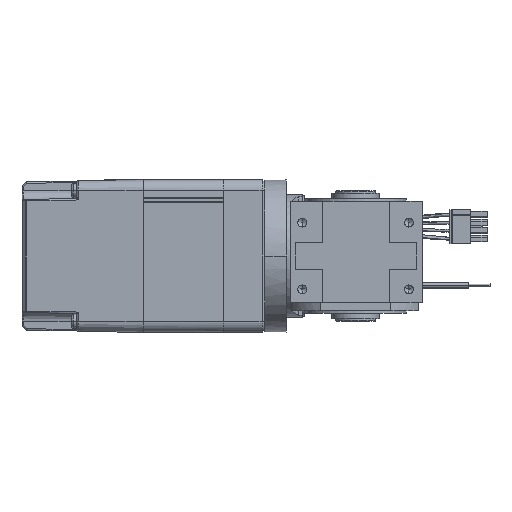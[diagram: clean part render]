
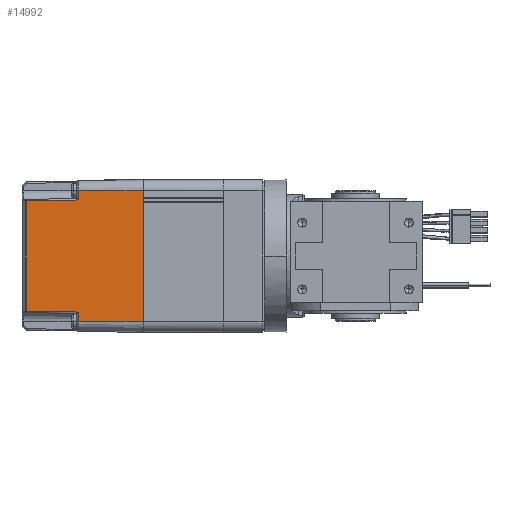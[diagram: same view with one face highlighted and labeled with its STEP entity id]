
A CAD part, front view. The second image highlights one B-rep face of the part: STEP entity #14992.
In plain terms, the highlighted planar face has unit normal (-0.018, -1, 0) as drawn and (0, 0.017, -1) by its records, which use the part's own axes.
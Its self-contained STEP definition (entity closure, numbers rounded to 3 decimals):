
#1582 = DIRECTION ( 'NONE',  ( 1., 0., 0. ) ) ;
#1925 = DIRECTION ( 'NONE',  ( -0.017, 1., 0.017 ) ) ;
#2215 = CARTESIAN_POINT ( 'NONE',  ( -21.371, 89.197, -27.787 ) ) ;
#2963 = VECTOR ( 'NONE', #19894, 1000. ) ;
#3404 = EDGE_CURVE ( 'NONE', #11133, #26727, #10520, .T. ) ;
#4010 = CARTESIAN_POINT ( 'NONE',  ( -24.5, 45.501, -28.55 ) ) ;
#4313 = ORIENTED_EDGE ( 'NONE', *, *, #36186, .F. ) ;
#4352 = ORIENTED_EDGE ( 'NONE', *, *, #3404, .T. ) ;
#4995 = LINE ( 'NONE', #49930, #24894 ) ;
#5929 = CARTESIAN_POINT ( 'NONE',  ( 20.637, 91.104, -27.754 ) ) ;
#6592 = DIRECTION ( 'NONE',  ( 0., 0.017, -1. ) ) ;
#7137 = VERTEX_POINT ( 'NONE', #26897 ) ;
#8196 = VECTOR ( 'NONE', #39408, 1000. ) ;
#8610 = VECTOR ( 'NONE', #21625, 1000. ) ;
#10025 = EDGE_CURVE ( 'NONE', #10252, #23198, #38202, .T. ) ;
#10252 = VERTEX_POINT ( 'NONE', #52858 ) ;
#10520 = LINE ( 'NONE', #43403, #8196 ) ;
#11049 = CARTESIAN_POINT ( 'NONE',  ( 24.5, 45.501, -28.55 ) ) ;
#11133 = VERTEX_POINT ( 'NONE', #24631 ) ;
#11315 = DIRECTION ( 'NONE',  ( 0., -1., -0.017 ) ) ;
#12358 = ORIENTED_EDGE ( 'NONE', *, *, #26862, .F. ) ;
#12559 = EDGE_CURVE ( 'NONE', #23198, #39804, #48217, .T. ) ;
#12953 = VECTOR ( 'NONE', #11315, 1000. ) ;
#13602 = CARTESIAN_POINT ( 'NONE',  ( 24.5, 45.5, -28.55 ) ) ;
#13882 = EDGE_CURVE ( 'NONE', #39804, #26980, #42602, .T. ) ;
#13955 = CARTESIAN_POINT ( 'NONE',  ( 24.5, 69.81, -28.126 ) ) ;
#14992 = ADVANCED_FACE ( 'NONE', ( #43771 ), #27908, .T. ) ;
#16564 = ORIENTED_EDGE ( 'NONE', *, *, #10025, .T. ) ;
#16761 = VERTEX_POINT ( 'NONE', #32447 ) ;
#17273 = EDGE_CURVE ( 'NONE', #26980, #11133, #52185, .T. ) ;
#17756 = ORIENTED_EDGE ( 'NONE', *, *, #12559, .T. ) ;
#19894 = DIRECTION ( 'NONE',  ( 0., 1., 0.017 ) ) ;
#21625 = DIRECTION ( 'NONE',  ( -1., 0., 0. ) ) ;
#23198 = VERTEX_POINT ( 'NONE', #13955 ) ;
#23865 = DIRECTION ( 'NONE',  ( 0., 1., 0.017 ) ) ;
#24309 = VECTOR ( 'NONE', #35067, 1000. ) ;
#24631 = CARTESIAN_POINT ( 'NONE',  ( -24.5, 69.81, -28.126 ) ) ;
#24894 = VECTOR ( 'NONE', #46161, 1000. ) ;
#26715 = LINE ( 'NONE', #5929, #45273 ) ;
#26727 = VERTEX_POINT ( 'NONE', #36795 ) ;
#26862 = EDGE_CURVE ( 'NONE', #16761, #26727, #4995, .T. ) ;
#26897 = CARTESIAN_POINT ( 'NONE',  ( 20.67, 89.197, -27.787 ) ) ;
#26980 = VERTEX_POINT ( 'NONE', #30714 ) ;
#27908 = PLANE ( 'NONE',  #34719 ) ;
#29340 = CARTESIAN_POINT ( 'NONE',  ( 30.61, 69.81, -28.126 ) ) ;
#30714 = CARTESIAN_POINT ( 'NONE',  ( -24.5, 45.5, -28.55 ) ) ;
#32447 = CARTESIAN_POINT ( 'NONE',  ( -20.67, 89.197, -27.787 ) ) ;
#33568 = ORIENTED_EDGE ( 'NONE', *, *, #17273, .T. ) ;
#34547 = ORIENTED_EDGE ( 'NONE', *, *, #13882, .T. ) ;
#34719 = AXIS2_PLACEMENT_3D ( 'NONE', #44288, #6592, #23865 ) ;
#34789 = CARTESIAN_POINT ( 'NONE',  ( 30.61, 45.5, -28.55 ) ) ;
#35067 = DIRECTION ( 'NONE',  ( -1., 0., 0. ) ) ;
#36186 = EDGE_CURVE ( 'NONE', #7137, #16761, #50400, .T. ) ;
#36795 = CARTESIAN_POINT ( 'NONE',  ( -21.008, 69.81, -28.126 ) ) ;
#38202 = LINE ( 'NONE', #29340, #43912 ) ;
#38736 = ORIENTED_EDGE ( 'NONE', *, *, #45575, .F. ) ;
#39408 = DIRECTION ( 'NONE',  ( 1., 0., 0. ) ) ;
#39804 = VERTEX_POINT ( 'NONE', #13602 ) ;
#42602 = LINE ( 'NONE', #34789, #24309 ) ;
#43403 = CARTESIAN_POINT ( 'NONE',  ( 30.61, 69.81, -28.126 ) ) ;
#43771 = FACE_OUTER_BOUND ( 'NONE', #45794, .T. ) ;
#43912 = VECTOR ( 'NONE', #1582, 1000. ) ;
#44288 = CARTESIAN_POINT ( 'NONE',  ( 30.61, 45.501, -28.55 ) ) ;
#45273 = VECTOR ( 'NONE', #1925, 1000. ) ;
#45575 = EDGE_CURVE ( 'NONE', #10252, #7137, #26715, .T. ) ;
#45794 = EDGE_LOOP ( 'NONE', ( #12358, #4313, #38736, #16564, #17756, #34547, #33568, #4352 ) ) ;
#46161 = DIRECTION ( 'NONE',  ( -0.017, -1., -0.017 ) ) ;
#48217 = LINE ( 'NONE', #11049, #12953 ) ;
#49930 = CARTESIAN_POINT ( 'NONE',  ( -21.437, 45.245, -28.554 ) ) ;
#50400 = LINE ( 'NONE', #2215, #8610 ) ;
#52185 = LINE ( 'NONE', #4010, #2963 ) ;
#52858 = CARTESIAN_POINT ( 'NONE',  ( 21.008, 69.81, -28.126 ) ) ;
